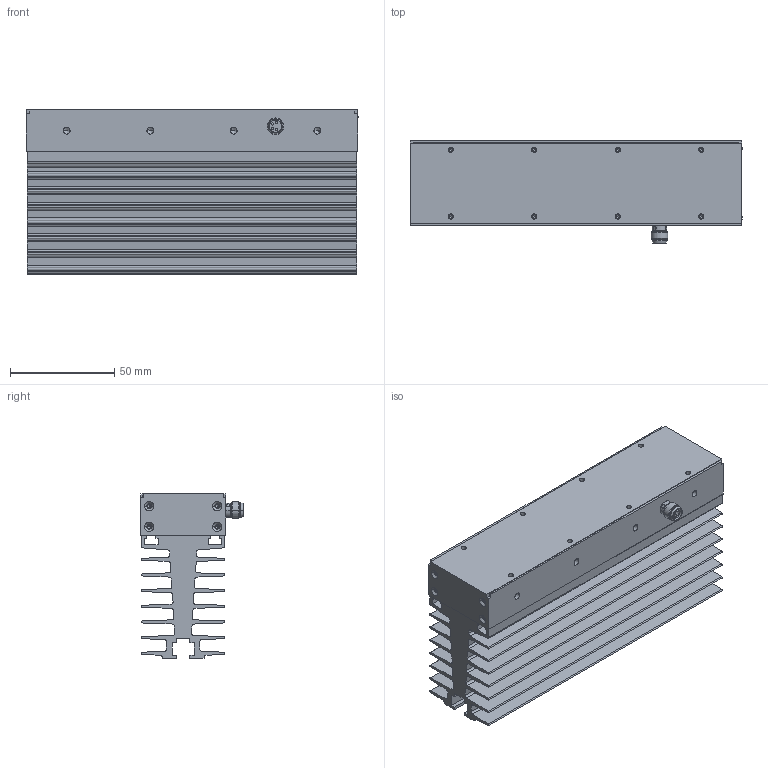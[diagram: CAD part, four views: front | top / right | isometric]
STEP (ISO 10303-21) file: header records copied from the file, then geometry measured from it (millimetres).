
FILE_DESCRIPTION(('STEP AP214'),'1');
FILE_NAME('Z:/Spaceclaim-Entwürfe/Powerline-Serie/POWER-LINE-2TE/Powerline-2TE.stp','2015-07-24T08:31:14',(' '),(' '),'Spatial InterOp 3D',' ',' ');
FILE_SCHEMA(('automotive_design'));
Length unit declared in the file: metre
Products named in the file (1): 1
Bounding box: 159 x 49.1 x 79 mm (x, y, z)
Volume: 271957.9 mm3; surface area: 125409.3 mm2
Topology: 1 solids, 4 shells, 477 faces, 1213 edges, 749 vertices
Faces by surface type: cylinder 218, plane 160, cone 83, bspline 8, sphere 4, torus 4
Entity records: 18768 total; most frequent: CARTESIAN_POINT 3485, DIRECTION 2488, ORIENTED_EDGE 2306, EDGE_CURVE 1153, AXIS2_PLACEMENT_3D 942, VERTEX_POINT 749, LINE 604, VECTOR 604
